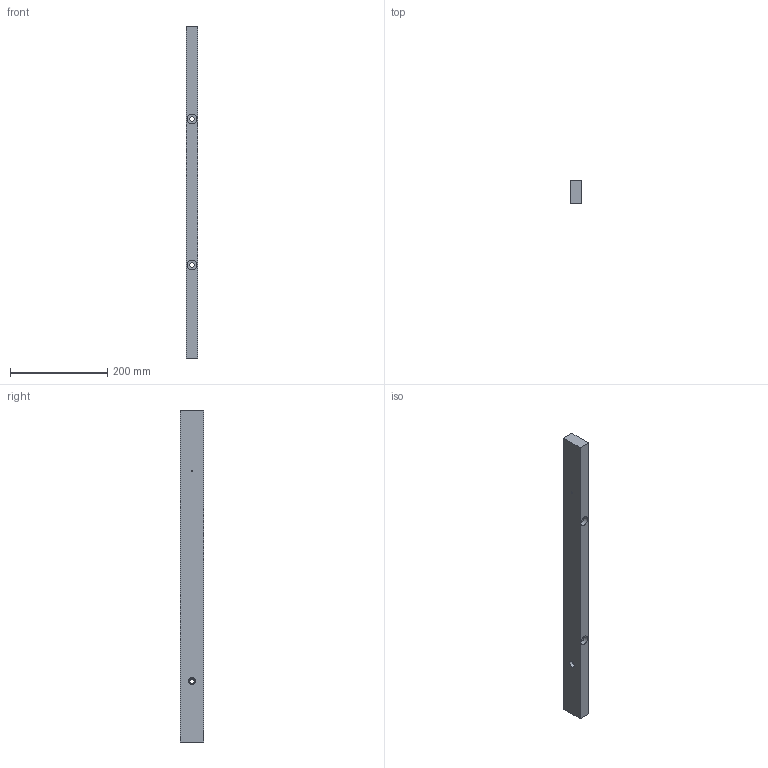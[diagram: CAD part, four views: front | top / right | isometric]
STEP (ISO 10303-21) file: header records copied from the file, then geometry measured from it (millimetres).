
FILE_DESCRIPTION (( 'STEP AP203' ), '1' );
FILE_NAME ('Tasseau_680_Cadre_Deflecteur.STEP', '2026-06-24T07:29:50', ( '' ), ( '' ), 'SwSTEP 2.0', 'SolidWorks 2024', '' );
FILE_SCHEMA (( 'CONFIG_CONTROL_DESIGN' ));
Length unit declared in the file: millimetre
Products named in the file (1): Tasseau_680_Cadre_Deflecteur_Droite
Bounding box: 24 x 48 x 682 mm (x, y, z)
Volume: 770320.5 mm3; surface area: 104866.2 mm2
Topology: 1 solids, 1 shells, 20 faces, 42 edges, 29 vertices
Faces by surface type: plane 11, cylinder 9
Full cylindrical faces by diameter (mm): 3 x1, 9 x3, 14 x3, 20 x2
Entity records: 567 total; most frequent: DIRECTION 90, CARTESIAN_POINT 77, ORIENTED_EDGE 60, EDGE_LOOP 42, AXIS2_PLACEMENT_3D 39, EDGE_CURVE 30, FACE_OUTER_BOUND 29, VERTEX_POINT 26
